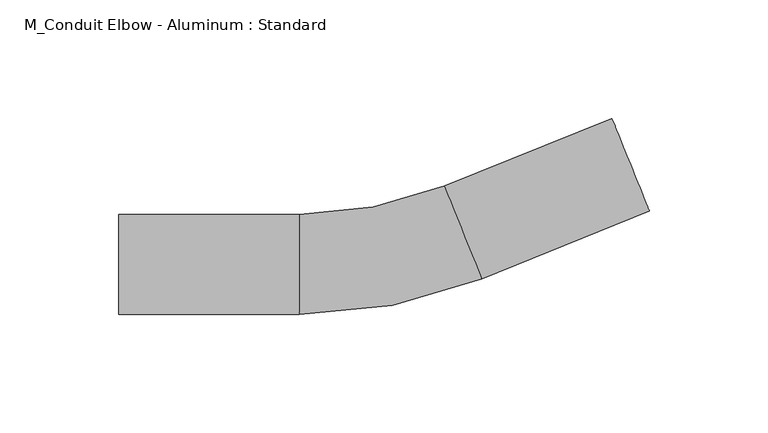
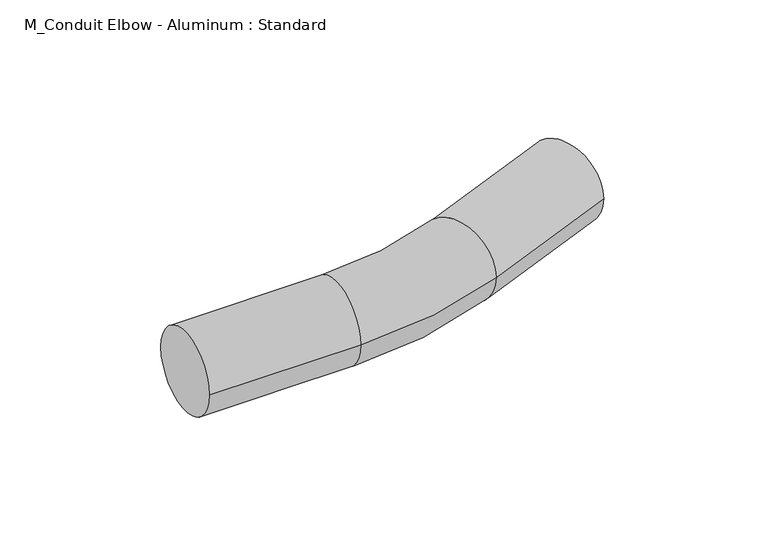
"""IFC4 building model written with IfcOpenShell, lengths in millimetres: cable carrier fitting geometry, M_Conduit Elbow - Aluminum : Standard."""

from ifc_helpers import new_model, si_unit, point, frame, origin, place, context, project, spatial, circle_curve, ellipse_curve, trimmed, source, transform, mapped, element, save
from ifc_brep_helpers import plane_surface, cylinder_surface, revolved_surface, advanced_brep


def m_conduit_elbow_aluminum_standard_ff32c618(model_context):
    return source(origin(), model_context, "Body", "AdvancedBrep", [
        advanced_brep(
        [(-111.9951339, -21.082, 0.0), (-111.9951339, 21.082, 0.0), (-35.7951339, -21.082, 0.0), (-35.7951339, 21.082, 0.0), (25.291214, 32.9559832, 0.0), (41.0861265, -6.1377968, 0.0), (111.7375362, 22.4072256, 0.0), (95.9426238, 61.5010056, 0.0)],
        [
            (0, 1, circle_curve(frame((-111.9951339, 0.0, 0.0), z_axis=(-1.0, 0.0, 0.0), x_axis=(0.0, 1.0, 0.0)), 21.082)),
            (1, 0, circle_curve(frame((-111.9951339, 0.0, 0.0), z_axis=(-1.0, 0.0, 0.0), x_axis=(0.0, 1.0, 0.0)), 21.082)),
            (0, 2),
            (2, 3, circle_curve(frame((-35.7951339, 0.0, 0.0), z_axis=(-1.0, 0.0, 0.0), x_axis=(0.0, 1.0, 0.0)), 21.082)),
            (3, 1),
            (3, 2, circle_curve(frame((-35.7951339, 0.0, 0.0), z_axis=(-1.0, 0.0, 0.0), x_axis=(0.0, 1.0, 0.0)), 21.082)),
            (4, 3, circle_curve(frame((-35.7951339, 184.15, 0.0), z_axis=(0.0, 0.0, -1.0), x_axis=(0.0, -1.0, 0.0)), 163.068)),
            (2, 5, circle_curve(frame((-35.7951339, 184.15, 0.0), z_axis=(0.0, 0.0, 1.0), x_axis=(0.0, -1.0, 0.0)), 205.232)),
            (5, 4, circle_curve(frame((33.1886702, 13.4090932, 0.0), z_axis=(-0.9271838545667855, -0.3746065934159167, 0.0), x_axis=(-0.3746065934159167, 0.9271838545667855, 0.0)), 21.082)),
            (4, 5, circle_curve(frame((33.1886702, 13.4090932, 0.0), z_axis=(-0.9271838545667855, -0.3746065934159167, 0.0), x_axis=(-0.3746065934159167, 0.9271838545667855, 0.0)), 21.082)),
            (6, 7, circle_curve(frame((103.84008, 41.9541156, 0.0), z_axis=(0.9271838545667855, 0.37460659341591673, 0.0), x_axis=(-0.37460659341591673, 0.9271838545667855, 0.0)), 21.082)),
            (7, 6, circle_curve(frame((103.84008, 41.9541156, 0.0), z_axis=(0.9271838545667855, 0.37460659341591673, 0.0), x_axis=(-0.37460659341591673, 0.9271838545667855, 0.0)), 21.082)),
            (5, 6),
            (7, 4),
        ],
        [
            plane_surface(frame((-111.9951339, 0.0, 0.0), z_axis=(-1.0, 0.0, 0.0), x_axis=(0.0, 0.0, 1.0))),
            cylinder_surface(frame((-111.9951339, 0.0, 0.0), z_axis=(-1.0, 0.0, 0.0), x_axis=(0.0, 1.0, 0.0)), 21.082),
            revolved_surface(trimmed(ellipse_curve(frame((-35.7951339, 0.0, 0.0), z_axis=(-1.0, 0.0, 0.0), x_axis=(0.0, 1.0, 0.0)), 21.082, 21.082), [point((-35.7951339, -21.082, 0.0))], [point((-35.7951339, 21.082, 0.0))], True, "CARTESIAN"), (-35.7951339, 184.15, 0.0), (0.0, 0.0, 1.0)),
            revolved_surface(trimmed(ellipse_curve(frame((-35.7951339, 0.0, 0.0), z_axis=(-1.0, 0.0, 0.0), x_axis=(0.0, 1.0, 0.0)), 21.082, 21.082), [point((-35.7951339, 21.082, 0.0))], [point((-35.7951339, -21.082, 0.0))], True, "CARTESIAN"), (-35.7951339, 184.15, 0.0), (0.0, 0.0, 1.0)),
            plane_surface(frame((103.84008, 41.9541156, 0.0), z_axis=(0.9271838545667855, 0.3746065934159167, 0.0), x_axis=(0.0, 0.0, 1.0))),
            cylinder_surface(frame((33.1886702, 13.4090932, 0.0), z_axis=(-0.9271838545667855, -0.37460659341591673, 0.0), x_axis=(-0.37460659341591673, 0.9271838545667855, 0.0)), 21.082),
        ],
        [
            (0, [[1, 2]]),
            (1, [[-1, 3, 4, 5]]),
            (1, [[-2, -5, 6, -3]]),
            (2, [[7, -4, 8, 9]]),
            (3, [[-8, -6, -7, 10]]),
            (4, [[11, 12]]),
            (5, [[-9, 13, -12, 14]]),
            (5, [[-10, -14, -11, -13]]),
        ],
    ),
    ])


if __name__ == "__main__":
    model = new_model("IFC4")
    model_context = context("Model", 3, world=origin())
    ifc_project = project(units=[si_unit("LENGTHUNIT", "METRE", prefix="MILLI")], contexts=[model_context])
    site = spatial("IfcSite", under=ifc_project)
    building = spatial("IfcBuilding", under=site)
    placement = place(None, origin())
    m_conduit_elbow_aluminum_standard_shape = m_conduit_elbow_aluminum_standard_ff32c618(model_context)
    element("IfcCableCarrierFitting", 1, ObjectType="M_Conduit Elbow - Aluminum : Standard", at=placement, inside=building, context=model_context, shape_type="MappedRepresentation", body=[
        mapped(m_conduit_elbow_aluminum_standard_shape, transform((0.0, 0.0, 0.0), x_axis=(1.0, 0.0, 0.0), y_axis=(0.0, 1.0, 0.0), z_axis=(0.0, 0.0, 1.0))),
    ])
    save(model, "model.ifc")
